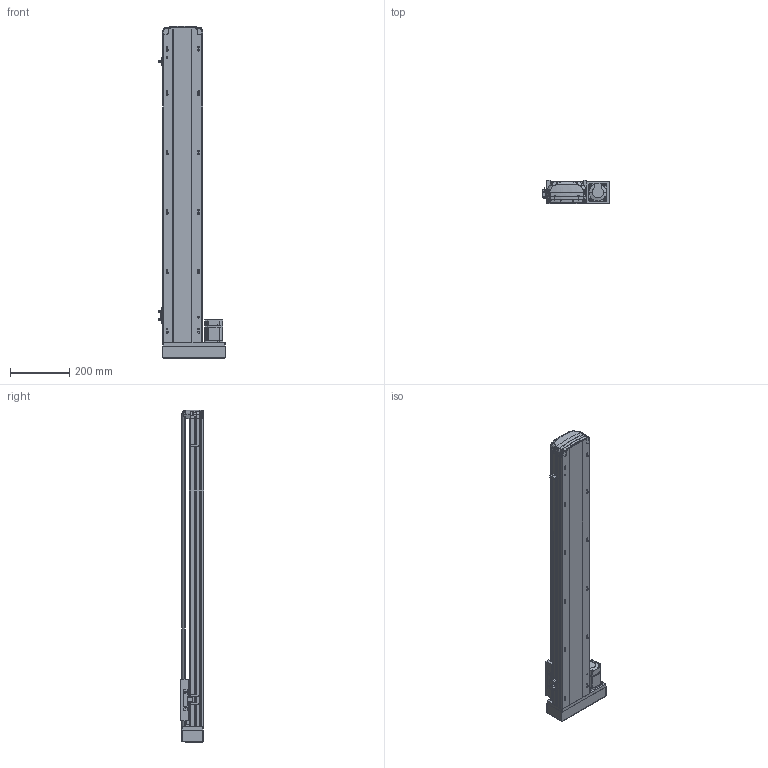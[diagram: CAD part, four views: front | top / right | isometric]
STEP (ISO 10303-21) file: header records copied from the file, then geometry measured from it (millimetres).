
FILE_DESCRIPTION (( 'STEP AP214' ), '1' );
FILE_NAME ('RTH14-XX-850-R-M20-C4.STEP', '2025-10-24T09:56:58', ( 'Microsoft' ), ( 'Microsoft' ), 'SwSTEP 2.0', 'SolidWorks 2018', '' );
FILE_SCHEMA (( 'AUTOMOTIVE_DESIGN' ));
Length unit declared in the file: millimetre
Products named in the file (10): N_MSMD022P1AA_200W^RTH14-XX-XX-R-M20-C4; N_RTH13-L-008-P20 萇儂啣酘蛌殏^RTH14-XX-XX-R-M20-C4; N_RTH14-M-007P奻裔^RTH14-XX-XX-R-M20-C4; N_RTH14-R-004-SFSR16賑釱^RTH14-XX-XX-R-M20-C4; RTH14-XX-850-R-M20-C4; N_RTH13-L-012感应片（外置）^RTH14-XX-XX-R-M20-C4; N_RTH14-GY-001P^RTH14-XX-XX-R-M20-C4; N_OMRON EE-SX672 传感器^RTH14-XX-XX-R-M20-C4; N_RTH14-M-011P菁釱^RTH14-XX-XX-R-M20-C4; N_RTH13-L-018 裔赽^RTH14-XX-XX-R-M20-C4
Assembly tree (11 placements, depth 2):
  RTH14-XX-850-R-M20-C4
    N_RTH14-M-011P菁釱^RTH14-XX-XX-R-M20-C4
    N_RTH14-M-007P奻裔^RTH14-XX-XX-R-M20-C4
    N_MSMD022P1AA_200W^RTH14-XX-XX-R-M20-C4
    N_RTH13-L-008-P20 萇儂啣酘蛌殏^RTH14-XX-XX-R-M20-C4
    N_RTH13-L-018 裔赽^RTH14-XX-XX-R-M20-C4
    N_RTH13-L-012感应片（外置）^RTH14-XX-XX-R-M20-C4
    N_OMRON EE-SX672 传感器^RTH14-XX-XX-R-M20-C4  x3
    N_RTH14-R-004-SFSR16賑釱^RTH14-XX-XX-R-M20-C4
    N_RTH14-GY-001P^RTH14-XX-XX-R-M20-C4
Bounding box: 224 x 78.03 x 1117.73 mm (x, y, z)
Volume: 4866298.3 mm3; surface area: 1137282.3 mm2
Topology: 10 solids, 12 shells, 1883 faces, 5272 edges, 3457 vertices
Faces by surface type: plane 991, cylinder 497, bspline 346, cone 45, torus 4
Entity records: 57679 total; most frequent: CARTESIAN_POINT 23227, ORIENTED_EDGE 7601, DIRECTION 6114, EDGE_CURVE 3806, VERTEX_POINT 2493, VECTOR 2168, LINE 2168, AXIS2_PLACEMENT_3D 1973
